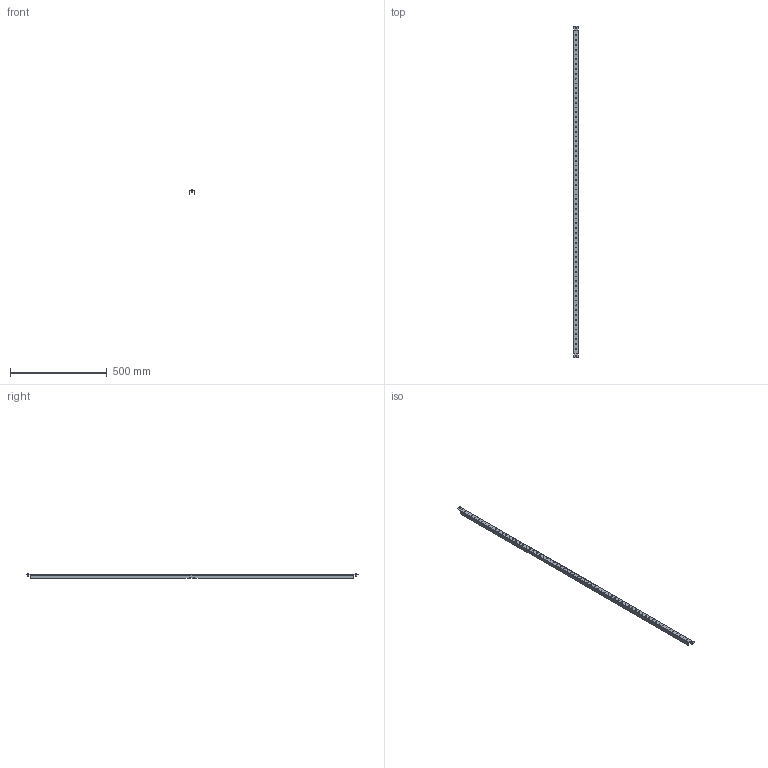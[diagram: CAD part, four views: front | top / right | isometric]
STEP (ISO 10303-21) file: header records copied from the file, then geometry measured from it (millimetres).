
FILE_DESCRIPTION (( 'STEP AP203' ), '1' );
FILE_NAME ('R6PH18.step', '2025-07-11T09:16:27', ( '' ), ( '' ), 'SwSTEP 2.0', 'SolidWorks 2022', '' );
FILE_SCHEMA (( 'CONFIG_CONTROL_DESIGN' ));
Length unit declared in the file: millimetre
Products named in the file (3): M5x12 DIN 7500 C Torx Zinc_stright; R6PH18; RB.3324.00.00.0_-04
Assembly tree (3 placements, depth 2):
  R6PH18
    RB.3324.00.00.0_-04
    M5x12 DIN 7500 C Torx Zinc_stright  x2
Bounding box: 25 x 1720 x 24.55 mm (x, y, z)
Volume: 150577.5 mm3; surface area: 207250.5 mm2
Topology: 3 solids, 3 shells, 184 faces, 462 edges, 286 vertices
Faces by surface type: cylinder 94, plane 78, torus 4, cone 4, sphere 2, bspline 2
Full cylindrical faces by diameter (mm): 4.2 x66, 5 x2, 9.5 x2
Entity records: 5517 total; most frequent: CARTESIAN_POINT 1000, DIRECTION 888, ORIENTED_EDGE 712, EDGE_LOOP 378, AXIS2_PLACEMENT_3D 366, EDGE_CURVE 356, VERTEX_POINT 266, FACE_OUTER_BOUND 240
